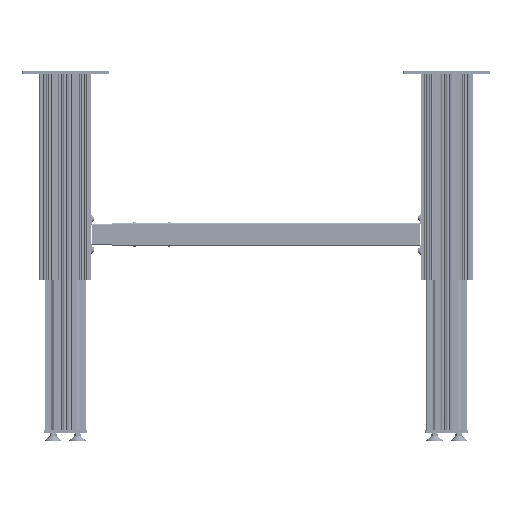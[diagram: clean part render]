
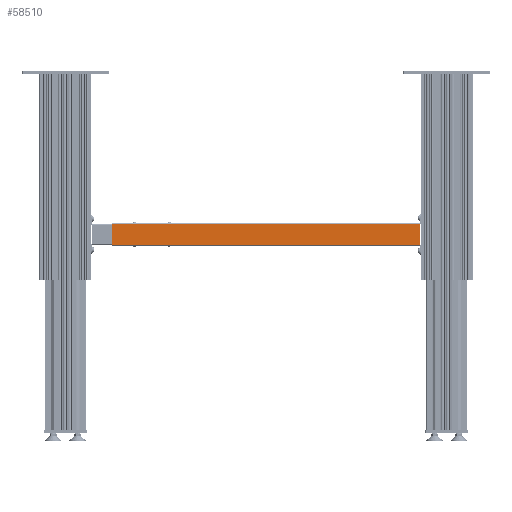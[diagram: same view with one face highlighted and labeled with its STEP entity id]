
A CAD part, left-side view. The second image highlights one B-rep face of the part: STEP entity #58510.
In plain terms, the highlighted planar face has unit normal (-1, 0, 0) as drawn and (0, 0, -1) by its records, which use the part's own axes.
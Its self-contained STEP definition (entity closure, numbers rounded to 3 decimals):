
#20475=ORIENTED_EDGE('',*,*,#29806,.F.);
#20476=ORIENTED_EDGE('',*,*,#29792,.T.);
#20477=ORIENTED_EDGE('',*,*,#29807,.F.);
#20478=ORIENTED_EDGE('',*,*,#29800,.T.);
#29792=EDGE_CURVE('',#35786,#35787,#41331,.T.);
#29800=EDGE_CURVE('',#35794,#35795,#41335,.T.);
#29806=EDGE_CURVE('',#35786,#35795,#41339,.T.);
#29807=EDGE_CURVE('',#35794,#35787,#41340,.T.);
#35786=VERTEX_POINT('',#110918);
#35787=VERTEX_POINT('',#110919);
#35794=VERTEX_POINT('',#110936);
#35795=VERTEX_POINT('',#110937);
#41331=LINE('',#110917,#46833);
#41335=LINE('',#110935,#46837);
#41339=LINE('',#110947,#46841);
#41340=LINE('',#110948,#46842);
#46833=VECTOR('',#91968,1000.);
#46837=VECTOR('',#91984,1000.);
#46841=VECTOR('',#91996,1000.);
#46842=VECTOR('',#91997,1000.);
#50327=EDGE_LOOP('',(#20475,#20476,#20477,#20478));
#53745=FACE_BOUND('',#50327,.T.);
#55617=PLANE('',#76002);
#58510=ADVANCED_FACE('',(#53745),#55617,.T.);
#76002=AXIS2_PLACEMENT_3D('',#110946,#91994,#91995);
#91968=DIRECTION('',(-1.,0.,0.));
#91984=DIRECTION('',(1.,0.,0.));
#91994=DIRECTION('',(0.,0.,-1.));
#91995=DIRECTION('',(-1.,0.,0.));
#91996=DIRECTION('',(0.,1.,0.));
#91997=DIRECTION('',(0.,-1.,0.));
#110917=CARTESIAN_POINT('',(887.7,-29.9,-2.5));
#110918=CARTESIAN_POINT('',(887.7,-29.9,-2.5));
#110919=CARTESIAN_POINT('',(0.,-29.9,-2.5));
#110935=CARTESIAN_POINT('',(0.,29.9,-2.5));
#110936=CARTESIAN_POINT('',(0.,29.9,-2.5));
#110937=CARTESIAN_POINT('',(887.7,29.9,-2.5));
#110946=CARTESIAN_POINT('',(0.,0.,-2.5));
#110947=CARTESIAN_POINT('',(887.7,-32.5,-2.5));
#110948=CARTESIAN_POINT('',(0.,-32.5,-2.5));
